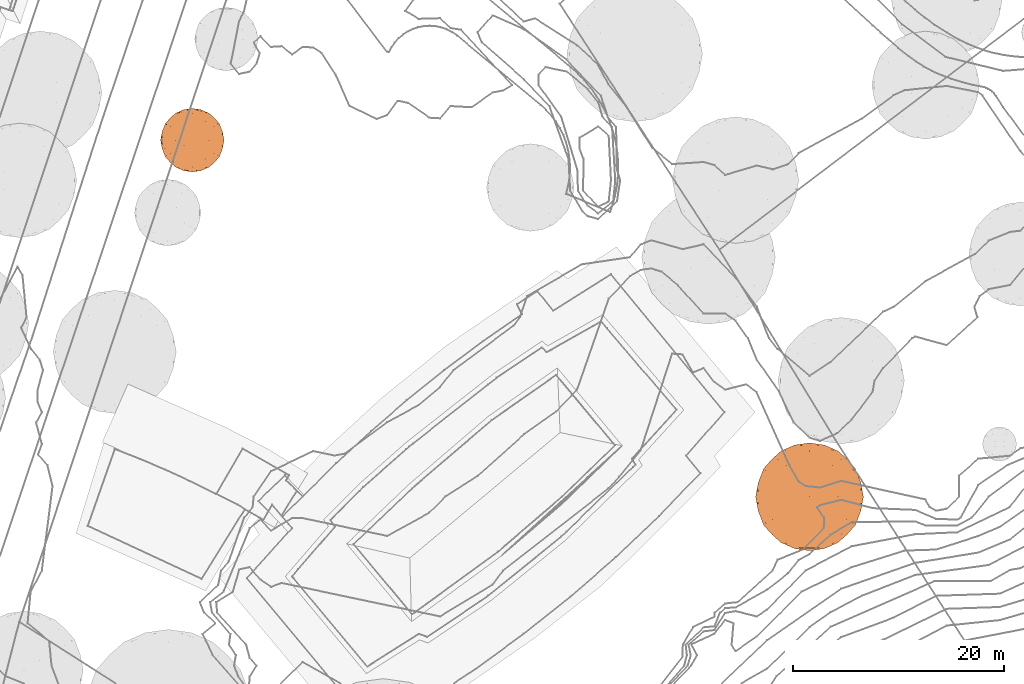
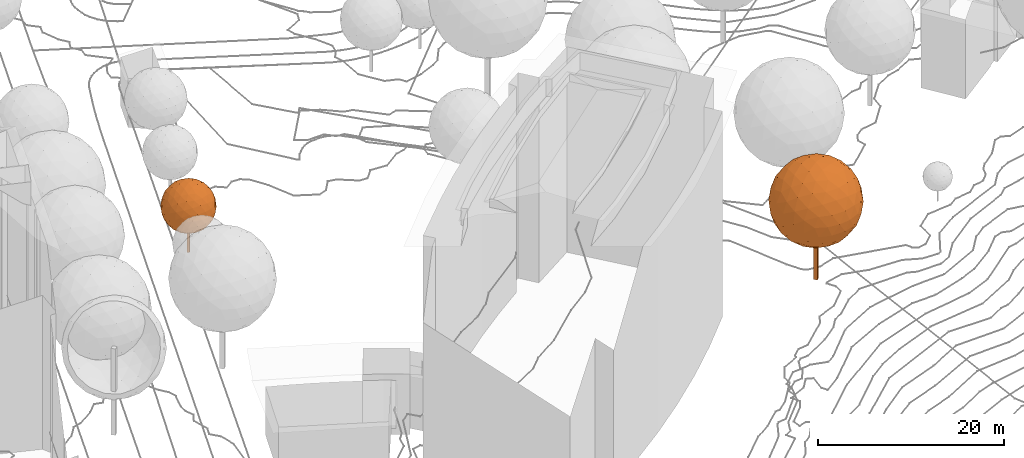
# Not in any storey, part 216 of 477: 2 geographic elements.
"""IFC4 model written with IfcOpenShell, lengths in metres."""

from ifc_helpers import new_model, si_unit, frame, origin_with_axes, place, context, subcontext, project, spatial, polygons, element, save


model = new_model("IFC4")

# Units and contexts
model_context = context("Model", 3, precision=1e-05, world=origin_with_axes())
body_context = subcontext(model_context, "Body", "Model", "MODEL_VIEW")
ifc_project = project(units=[si_unit("AREAUNIT", "SQUARE_METRE"), si_unit("LENGTHUNIT", "METRE")], contexts=[model_context])

# Sites
site_1_placement = place(None, origin_with_axes())
site_1 = spatial("IfcSite", under=ifc_project, at=site_1_placement, Name="Topoexport Site")
site_2_placement = place(site_1_placement, origin_with_axes())
site_2 = spatial("IfcSite", under=site_1, at=site_2_placement, Name="TPX_TREES")

# Geographic elements
geographic_element_1_placement = place(site_2_placement, frame((52.2147320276, 72.9507409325, 529.8251356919), z_axis=(0.0, 0.0, 1.0), x_axis=(1.0, 0.0, 0.0)))
element("IfcGeographicElement", 1, at=geographic_element_1_placement, inside=site_2, Name="Tree TR1 CD60", ObjectType="VEGETATION", PredefinedType="USERDEFINED", context=body_context, shape_type="Tessellation", body=[
    polygons([(0.0, -0.1913868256, 0.0), (-0.1913868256, 0.0, 0.0), (0.0, 0.1913868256, 0.0), (0.1913868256, 0.0, 0.0), (0.0, -0.1913868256, 6.0125944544), (-0.1913868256, 0.0, 6.0125944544), (0.0, 0.1913868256, 6.0125944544), (0.1913868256, 0.0, 6.0125944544)], [[[3, 4, 1]], [[1, 2, 3]], [[5, 8, 7]], [[7, 6, 5]], [[5, 6, 1]], [[1, 6, 2]], [[6, 7, 2]], [[2, 7, 3]], [[8, 5, 4]], [[4, 5, 1]], [[7, 8, 3]], [[3, 8, 4]]]),
    polygons([(-1.5805039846, 2.5573091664, 6.0125944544), (1.5805039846, 2.5573091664, 6.0125944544), (-1.5805039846, -2.5573091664, 6.0125944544), (1.5805039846, -2.5573091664, 6.0125944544), (0.0, -1.5805039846, 8.5699036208), (0.0, 1.5805039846, 8.5699036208), (0.0, -1.5805039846, 3.4552852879), (0.0, 1.5805039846, 3.4552852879), (2.5573091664, 0.0, 4.4320904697), (2.5573091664, 0.0, 7.593098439), (-2.5573091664, 0.0, 4.4320904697), (-2.5573091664, 0.0, 7.593098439), (0.0, 3.0062972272, 6.0125944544), (0.0, -3.0062972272, 6.0125944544), (-0.9289969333, -2.4321455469, 7.5157430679), (0.9289969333, -2.4321455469, 7.5157430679), (-0.9289969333, 2.4321455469, 7.5157430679), (0.9289969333, 2.4321455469, 7.5157430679), (0.0, 0.0, 9.0188916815), (-0.9289969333, -2.4321455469, 4.5094458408), (0.9289969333, -2.4321455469, 4.5094458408), (-0.9289969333, 2.4321455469, 4.5094458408), (0.9289969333, 2.4321455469, 4.5094458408), (0.0, 0.0, 3.0062972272), (2.4321455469, 1.5031486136, 5.083597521), (2.4321455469, -1.5031486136, 5.083597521), (1.5031486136, -0.9289969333, 3.5804489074), (1.5031486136, 0.9289969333, 3.5804489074), (2.4321455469, 1.5031486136, 6.9415913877), (2.4321455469, -1.5031486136, 6.9415913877), (1.5031486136, -0.9289969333, 8.4447400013), (1.5031486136, 0.9289969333, 8.4447400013), (3.0062972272, 0.0, 6.0125944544), (-2.4321455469, 1.5031486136, 5.083597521), (-2.4321455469, -1.5031486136, 5.083597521), (-1.5031486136, -0.9289969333, 3.5804489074), (-1.5031486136, 0.9289969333, 3.5804489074), (-2.4321455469, 1.5031486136, 6.9415913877), (-2.4321455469, -1.5031486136, 6.9415913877), (-1.5031486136, -0.9289969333, 8.4447400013), (-1.5031486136, 0.9289969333, 8.4447400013), (-3.0062972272, 0.0, 6.0125944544), (-0.8215204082, 2.8918726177, 6.0125944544), (0.8215204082, 2.8918726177, 6.0125944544), (-0.8215204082, -2.8918726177, 6.0125944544), (0.8215204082, -2.8918726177, 6.0125944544), (-1.3043979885, -2.5934378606, 6.7939067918), (-0.4828775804, -2.085710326, 8.1231547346), (-0.4884025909, -2.8591585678, 6.8028464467), (1.3043979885, -2.5934378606, 6.7939067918), (0.4828775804, -2.085710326, 8.1231547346), (0.4884025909, -2.8591585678, 6.8028464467), (0.0, -2.5573091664, 7.593098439), (-1.3043979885, 2.5934378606, 6.7939067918), (-0.4828775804, 2.085710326, 8.1231547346), (-0.4884025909, 2.8591585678, 6.8028464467), (1.3043979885, 2.5934378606, 6.7939067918), (0.4828775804, 2.085710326, 8.1231547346), (0.4884025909, 2.8591585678, 6.8028464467), (0.0, 2.5573091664, 7.593098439), (0.0, -0.8215204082, 8.9044670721), (0.0, 0.8215204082, 8.9044670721), (-1.3043979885, -2.5934378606, 5.2312821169), (-0.4828775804, -2.085710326, 3.9020341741), (-0.4884025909, -2.8591585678, 5.222342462), (1.3043979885, -2.5934378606, 5.2312821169), (0.4828775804, -2.085710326, 3.9020341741), (0.4884025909, -2.8591585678, 5.222342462), (0.0, -2.5573091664, 4.4320904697), (-1.3043979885, 2.5934378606, 5.2312821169), (-0.4828775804, 2.085710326, 3.9020341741), (-0.4884025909, 2.8591585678, 5.222342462), (1.3043979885, 2.5934378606, 5.2312821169), (0.4828775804, 2.085710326, 3.9020341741), (0.4884025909, 2.8591585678, 5.222342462), (0.0, 2.5573091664, 4.4320904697), (0.0, -0.8215204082, 3.1207218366), (0.0, 0.8215204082, 3.1207218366), (2.085710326, 2.1105602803, 5.529716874), (2.5934378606, 0.7813123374, 4.7081964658), (1.7670571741, 2.0689065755, 4.7339398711), (2.085710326, -2.1105602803, 5.529716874), (2.5934378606, -0.7813123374, 4.7081964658), (1.7670571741, -2.0689065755, 4.7339398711), (0.7813123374, -1.3043979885, 3.4191565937), (2.1105602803, -0.4828775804, 3.9268841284), (1.2786545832, -1.7670571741, 3.9436878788), (0.7902519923, -0.4884025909, 3.1534358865), (2.0689065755, -1.2786545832, 4.2455372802), (0.7813123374, 1.3043979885, 3.4191565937), (2.1105602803, 0.4828775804, 3.9268841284), (1.2786545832, 1.7670571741, 3.9436878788), (0.7902519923, 0.4884025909, 3.1534358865), (2.0689065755, 1.2786545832, 4.2455372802), (1.5805039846, 0.0, 3.4552852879), (2.085710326, 2.1105602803, 6.4954720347), (2.5934378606, 0.7813123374, 7.3169924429), (1.7670571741, 2.0689065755, 7.2912490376), (2.5573091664, 1.5805039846, 6.0125944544), (2.085710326, -2.1105602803, 6.4954720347), (2.5934378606, -0.7813123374, 7.3169924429), (1.7670571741, -2.0689065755, 7.2912490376), (2.5573091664, -1.5805039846, 6.0125944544), (0.7813123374, -1.3043979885, 8.606032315), (2.1105602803, -0.4828775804, 8.0983047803), (1.2786545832, -1.7670571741, 8.0815010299), (0.7902519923, -0.4884025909, 8.8717530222), (2.0689065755, -1.2786545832, 7.7796516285), (0.7813123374, 1.3043979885, 8.606032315), (2.1105602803, 0.4828775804, 8.0983047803), (1.2786545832, 1.7670571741, 8.0815010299), (0.7902519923, 0.4884025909, 8.8717530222), (2.0689065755, 1.2786545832, 7.7796516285), (1.5805039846, 0.0, 8.5699036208), (2.8918726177, 0.0, 5.1910740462), (2.8918726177, 0.0, 6.8341148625), (2.8591585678, 0.7902519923, 5.5241918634), (2.8591585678, -0.7902519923, 5.5241918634), (2.8591585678, 0.7902519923, 6.5009970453), (2.8591585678, -0.7902519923, 6.5009970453), (-2.085710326, 2.1105602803, 5.529716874), (-2.5934378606, 0.7813123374, 4.7081964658), (-1.7670571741, 2.0689065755, 4.7339398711), (-2.085710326, -2.1105602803, 5.529716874), (-2.5934378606, -0.7813123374, 4.7081964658), (-1.7670571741, -2.0689065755, 4.7339398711), (-0.7813123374, -1.3043979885, 3.4191565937), (-2.1105602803, -0.4828775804, 3.9268841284), (-1.2786545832, -1.7670571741, 3.9436878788), (-0.7902519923, -0.4884025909, 3.1534358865), (-2.0689065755, -1.2786545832, 4.2455372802), (-0.7813123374, 1.3043979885, 3.4191565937), (-2.1105602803, 0.4828775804, 3.9268841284), (-1.2786545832, 1.7670571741, 3.9436878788), (-0.7902519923, 0.4884025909, 3.1534358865), (-2.0689065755, 1.2786545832, 4.2455372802), (-1.5805039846, 0.0, 3.4552852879), (-2.085710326, 2.1105602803, 6.4954720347), (-2.5934378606, 0.7813123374, 7.3169924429), (-1.7670571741, 2.0689065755, 7.2912490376), (-2.5573091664, 1.5805039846, 6.0125944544), (-2.085710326, -2.1105602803, 6.4954720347), (-2.5934378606, -0.7813123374, 7.3169924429), (-1.7670571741, -2.0689065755, 7.2912490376), (-2.5573091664, -1.5805039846, 6.0125944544), (-0.7813123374, -1.3043979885, 8.606032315), (-2.1105602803, -0.4828775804, 8.0983047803), (-1.2786545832, -1.7670571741, 8.0815010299), (-0.7902519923, -0.4884025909, 8.8717530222), (-2.0689065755, -1.2786545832, 7.7796516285), (-0.7813123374, 1.3043979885, 8.606032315), (-2.1105602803, 0.4828775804, 8.0983047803), (-1.2786545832, 1.7670571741, 8.0815010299), (-0.7902519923, 0.4884025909, 8.8717530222), (-2.0689065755, 1.2786545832, 7.7796516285), (-1.5805039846, 0.0, 8.5699036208), (-2.8918726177, 0.0, 5.1910740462), (-2.8918726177, 0.0, 6.8341148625), (-2.8591585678, 0.7902519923, 5.5241918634), (-2.8591585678, -0.7902519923, 5.5241918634), (-2.8591585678, 0.7902519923, 6.5009970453), (-2.8591585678, -0.7902519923, 6.5009970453)], [[[1, 138, 54]], [[138, 38, 140]], [[54, 140, 17]], [[138, 140, 54]], [[38, 139, 155]], [[139, 12, 152]], [[155, 152, 41]], [[139, 152, 155]], [[17, 153, 55]], [[153, 41, 151]], [[55, 151, 6]], [[153, 151, 55]], [[38, 155, 140]], [[155, 41, 153]], [[140, 153, 17]], [[155, 153, 140]], [[1, 54, 43]], [[54, 17, 56]], [[43, 56, 13]], [[54, 56, 43]], [[17, 55, 60]], [[55, 6, 58]], [[60, 58, 18]], [[55, 58, 60]], [[13, 59, 44]], [[59, 18, 57]], [[44, 57, 2]], [[59, 57, 44]], [[17, 60, 56]], [[60, 18, 59]], [[56, 59, 13]], [[60, 59, 56]], [[1, 43, 70]], [[43, 13, 72]], [[70, 72, 22]], [[43, 72, 70]], [[13, 44, 75]], [[44, 2, 73]], [[75, 73, 23]], [[44, 73, 75]], [[22, 76, 71]], [[76, 23, 74]], [[71, 74, 8]], [[76, 74, 71]], [[13, 75, 72]], [[75, 23, 76]], [[72, 76, 22]], [[75, 76, 72]], [[1, 70, 121]], [[70, 22, 123]], [[121, 123, 34]], [[70, 123, 121]], [[22, 71, 134]], [[71, 8, 132]], [[134, 132, 37]], [[71, 132, 134]], [[34, 136, 122]], [[136, 37, 133]], [[122, 133, 11]], [[136, 133, 122]], [[22, 134, 123]], [[134, 37, 136]], [[123, 136, 34]], [[134, 136, 123]], [[1, 121, 138]], [[121, 34, 141]], [[138, 141, 38]], [[121, 141, 138]], [[34, 122, 159]], [[122, 11, 157]], [[159, 157, 42]], [[122, 157, 159]], [[38, 161, 139]], [[161, 42, 158]], [[139, 158, 12]], [[161, 158, 139]], [[34, 159, 141]], [[159, 42, 161]], [[141, 161, 38]], [[159, 161, 141]], [[2, 57, 96]], [[57, 18, 98]], [[96, 98, 29]], [[57, 98, 96]], [[18, 58, 111]], [[58, 6, 109]], [[111, 109, 32]], [[58, 109, 111]], [[29, 113, 97]], [[113, 32, 110]], [[97, 110, 10]], [[113, 110, 97]], [[18, 111, 98]], [[111, 32, 113]], [[98, 113, 29]], [[111, 113, 98]], [[6, 151, 62]], [[151, 41, 154]], [[62, 154, 19]], [[151, 154, 62]], [[41, 152, 156]], [[152, 12, 147]], [[156, 147, 40]], [[152, 147, 156]], [[19, 149, 61]], [[149, 40, 146]], [[61, 146, 5]], [[149, 146, 61]], [[41, 156, 154]], [[156, 40, 149]], [[154, 149, 19]], [[156, 149, 154]], [[12, 158, 143]], [[158, 42, 162]], [[143, 162, 39]], [[158, 162, 143]], [[42, 157, 160]], [[157, 11, 125]], [[160, 125, 35]], [[157, 125, 160]], [[39, 145, 142]], [[145, 35, 124]], [[142, 124, 3]], [[145, 124, 142]], [[42, 160, 162]], [[160, 35, 145]], [[162, 145, 39]], [[160, 145, 162]], [[11, 133, 128]], [[133, 37, 137]], [[128, 137, 36]], [[133, 137, 128]], [[37, 132, 135]], [[132, 8, 78]], [[135, 78, 24]], [[132, 78, 135]], [[36, 130, 127]], [[130, 24, 77]], [[127, 77, 7]], [[130, 77, 127]], [[37, 135, 137]], [[135, 24, 130]], [[137, 130, 36]], [[135, 130, 137]], [[8, 74, 90]], [[74, 23, 92]], [[90, 92, 28]], [[74, 92, 90]], [[23, 73, 81]], [[73, 2, 79]], [[81, 79, 25]], [[73, 79, 81]], [[28, 94, 91]], [[94, 25, 80]], [[91, 80, 9]], [[94, 80, 91]], [[23, 81, 92]], [[81, 25, 94]], [[92, 94, 28]], [[81, 94, 92]], [[4, 100, 50]], [[100, 30, 102]], [[50, 102, 16]], [[100, 102, 50]], [[30, 101, 108]], [[101, 10, 105]], [[108, 105, 31]], [[101, 105, 108]], [[16, 106, 51]], [[106, 31, 104]], [[51, 104, 5]], [[106, 104, 51]], [[30, 108, 102]], [[108, 31, 106]], [[102, 106, 16]], [[108, 106, 102]], [[4, 50, 46]], [[50, 16, 52]], [[46, 52, 14]], [[50, 52, 46]], [[16, 51, 53]], [[51, 5, 48]], [[53, 48, 15]], [[51, 48, 53]], [[14, 49, 45]], [[49, 15, 47]], [[45, 47, 3]], [[49, 47, 45]], [[16, 53, 52]], [[53, 15, 49]], [[52, 49, 14]], [[53, 49, 52]], [[4, 46, 66]], [[46, 14, 68]], [[66, 68, 21]], [[46, 68, 66]], [[14, 45, 65]], [[45, 3, 63]], [[65, 63, 20]], [[45, 63, 65]], [[21, 69, 67]], [[69, 20, 64]], [[67, 64, 7]], [[69, 64, 67]], [[14, 65, 68]], [[65, 20, 69]], [[68, 69, 21]], [[65, 69, 68]], [[4, 66, 82]], [[66, 21, 84]], [[82, 84, 26]], [[66, 84, 82]], [[21, 67, 87]], [[67, 7, 85]], [[87, 85, 27]], [[67, 85, 87]], [[26, 89, 83]], [[89, 27, 86]], [[83, 86, 9]], [[89, 86, 83]], [[21, 87, 84]], [[87, 27, 89]], [[84, 89, 26]], [[87, 89, 84]], [[4, 82, 100]], [[82, 26, 103]], [[100, 103, 30]], [[82, 103, 100]], [[26, 83, 118]], [[83, 9, 115]], [[118, 115, 33]], [[83, 115, 118]], [[30, 120, 101]], [[120, 33, 116]], [[101, 116, 10]], [[120, 116, 101]], [[26, 118, 103]], [[118, 33, 120]], [[103, 120, 30]], [[118, 120, 103]], [[5, 104, 61]], [[104, 31, 107]], [[61, 107, 19]], [[104, 107, 61]], [[31, 105, 114]], [[105, 10, 110]], [[114, 110, 32]], [[105, 110, 114]], [[19, 112, 62]], [[112, 32, 109]], [[62, 109, 6]], [[112, 109, 62]], [[31, 114, 107]], [[114, 32, 112]], [[107, 112, 19]], [[114, 112, 107]], [[3, 47, 142]], [[47, 15, 144]], [[142, 144, 39]], [[47, 144, 142]], [[15, 48, 148]], [[48, 5, 146]], [[148, 146, 40]], [[48, 146, 148]], [[39, 150, 143]], [[150, 40, 147]], [[143, 147, 12]], [[150, 147, 143]], [[15, 148, 144]], [[148, 40, 150]], [[144, 150, 39]], [[148, 150, 144]], [[7, 64, 127]], [[64, 20, 129]], [[127, 129, 36]], [[64, 129, 127]], [[20, 63, 126]], [[63, 3, 124]], [[126, 124, 35]], [[63, 124, 126]], [[36, 131, 128]], [[131, 35, 125]], [[128, 125, 11]], [[131, 125, 128]], [[20, 126, 129]], [[126, 35, 131]], [[129, 131, 36]], [[126, 131, 129]], [[9, 86, 91]], [[86, 27, 95]], [[91, 95, 28]], [[86, 95, 91]], [[27, 85, 88]], [[85, 7, 77]], [[88, 77, 24]], [[85, 77, 88]], [[28, 93, 90]], [[93, 24, 78]], [[90, 78, 8]], [[93, 78, 90]], [[27, 88, 95]], [[88, 24, 93]], [[95, 93, 28]], [[88, 93, 95]], [[10, 116, 97]], [[116, 33, 119]], [[97, 119, 29]], [[116, 119, 97]], [[33, 115, 117]], [[115, 9, 80]], [[117, 80, 25]], [[115, 80, 117]], [[29, 99, 96]], [[99, 25, 79]], [[96, 79, 2]], [[99, 79, 96]], [[33, 117, 119]], [[117, 25, 99]], [[119, 99, 29]], [[117, 99, 119]]]),
])
geographic_element_2_placement = place(site_2_placement, frame((110.6777320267, 39.1707419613, 526.315533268), z_axis=(0.0, 0.0, 1.0), x_axis=(1.0, 0.0, 0.0)))
element("IfcGeographicElement", 2, at=geographic_element_2_placement, inside=site_2, Name="Tree TR3 CD102", ObjectType="VEGETATION", PredefinedType="USERDEFINED", context=body_context, shape_type="Tessellation", body=[
    polygons([(0.0, -0.3250683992, 0.0), (-0.3250683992, 0.0, 0.0), (0.0, 0.3250683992, 0.0), (0.3250683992, 0.0, 0.0), (0.0, -0.3250683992, 10.2123249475), (-0.3250683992, 0.0, 10.2123249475), (0.0, 0.3250683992, 10.2123249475), (0.3250683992, 0.0, 10.2123249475)], [[[3, 4, 1]], [[1, 2, 3]], [[5, 8, 7]], [[7, 6, 5]], [[5, 6, 1]], [[1, 6, 2]], [[6, 7, 2]], [[2, 7, 3]], [[8, 5, 4]], [[4, 5, 1]], [[7, 8, 3]], [[3, 8, 4]]]),
    polygons([(-2.684468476, 4.3435612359, 10.2123249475), (2.684468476, 4.3435612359, 10.2123249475), (-2.684468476, -4.3435612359, 10.2123249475), (2.684468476, -4.3435612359, 10.2123249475), (0.0, -2.684468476, 14.5558861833), (0.0, 2.684468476, 14.5558861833), (0.0, -2.684468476, 5.8687637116), (0.0, 2.684468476, 5.8687637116), (4.3435612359, 0.0, 7.5278564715), (4.3435612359, 0.0, 12.8967934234), (-4.3435612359, 0.0, 7.5278564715), (-4.3435612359, 0.0, 12.8967934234), (0.0, 5.1061624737, 10.2123249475), (0.0, -5.1061624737, 10.2123249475), (-1.5778909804, -4.1309722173, 12.7654061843), (1.5778909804, -4.1309722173, 12.7654061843), (-1.5778909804, 4.1309722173, 12.7654061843), (1.5778909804, 4.1309722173, 12.7654061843), (0.0, 0.0, 15.3184874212), (-1.5778909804, -4.1309722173, 7.6592437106), (1.5778909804, -4.1309722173, 7.6592437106), (-1.5778909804, 4.1309722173, 7.6592437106), (1.5778909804, 4.1309722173, 7.6592437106), (0.0, 0.0, 5.1061624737), (4.1309722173, 2.5530812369, 8.634433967), (4.1309722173, -2.5530812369, 8.634433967), (2.5530812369, -1.5778909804, 6.0813527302), (2.5530812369, 1.5778909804, 6.0813527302), (4.1309722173, 2.5530812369, 11.7902159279), (4.1309722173, -2.5530812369, 11.7902159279), (2.5530812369, -1.5778909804, 14.3432971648), (2.5530812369, 1.5778909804, 14.3432971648), (5.1061624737, 0.0, 10.2123249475), (-4.1309722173, 2.5530812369, 8.634433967), (-4.1309722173, -2.5530812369, 8.634433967), (-2.5530812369, -1.5778909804, 6.0813527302), (-2.5530812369, 1.5778909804, 6.0813527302), (-4.1309722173, 2.5530812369, 11.7902159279), (-4.1309722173, -2.5530812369, 11.7902159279), (-2.5530812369, -1.5778909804, 14.3432971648), (-2.5530812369, 1.5778909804, 14.3432971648), (-5.1061624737, 0.0, 10.2123249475), (-1.3953432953, 4.9118135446, 10.2123249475), (1.3953432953, 4.9118135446, 10.2123249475), (-1.3953432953, -4.9118135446, 10.2123249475), (1.3953432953, -4.9118135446, 10.2123249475), (-2.2155055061, -4.404925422, 11.5393752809), (-0.8201622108, -3.5425558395, 13.7970881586), (-0.8295463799, -4.8562490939, 11.5545591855), (2.2155055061, -4.404925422, 11.5393752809), (0.8201622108, -3.5425558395, 13.7970881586), (0.8295463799, -4.8562490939, 11.5545591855), (0.0, -4.3435612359, 12.8967934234), (-2.2155055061, 4.404925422, 11.5393752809), (-0.8201622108, 3.5425558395, 13.7970881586), (-0.8295463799, 4.8562490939, 11.5545591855), (2.2155055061, 4.404925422, 11.5393752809), (0.8201622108, 3.5425558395, 13.7970881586), (0.8295463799, 4.8562490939, 11.5545591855), (0.0, 4.3435612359, 12.8967934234), (0.0, -1.3953432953, 15.124138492), (0.0, 1.3953432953, 15.124138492), (-2.2155055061, -4.404925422, 8.885274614), (-0.8201622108, -3.5425558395, 6.6275617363), (-0.8295463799, -4.8562490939, 8.8700907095), (2.2155055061, -4.404925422, 8.885274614), (0.8201622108, -3.5425558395, 6.6275617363), (0.8295463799, -4.8562490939, 8.8700907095), (0.0, -4.3435612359, 7.5278564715), (-2.2155055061, 4.404925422, 8.885274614), (-0.8201622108, 3.5425558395, 6.6275617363), (-0.8295463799, 4.8562490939, 8.8700907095), (2.2155055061, 4.404925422, 8.885274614), (0.8201622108, 3.5425558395, 6.6275617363), (0.8295463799, 4.8562490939, 8.8700907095), (0.0, 4.3435612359, 7.5278564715), (0.0, -1.3953432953, 5.3005114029), (0.0, 1.3953432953, 5.3005114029), (3.5425558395, 3.5847632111, 9.3921627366), (4.404925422, 1.3270503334, 7.9968194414), (3.0013269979, 3.5140148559, 8.0405443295), (3.5425558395, -3.5847632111, 9.3921627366), (4.404925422, -1.3270503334, 7.9968194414), (3.0013269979, -3.5140148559, 8.0405443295), (1.3270503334, -2.2155055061, 5.8073995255), (3.5847632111, -0.8201622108, 6.6697691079), (2.1717806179, -3.0013269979, 6.6983100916), (1.342234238, -0.8295463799, 5.3560758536), (3.5140148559, -2.1717806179, 7.2109979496), (1.3270503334, 2.2155055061, 5.8073995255), (3.5847632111, 0.8201622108, 6.6697691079), (2.1717806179, 3.0013269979, 6.6983100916), (1.342234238, 0.8295463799, 5.3560758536), (3.5140148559, 2.1717806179, 7.2109979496), (2.684468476, 0.0, 5.8687637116), (3.5425558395, 3.5847632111, 11.0324871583), (4.404925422, 1.3270503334, 12.4278304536), (3.0013269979, 3.5140148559, 12.3841055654), (4.3435612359, 2.684468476, 10.2123249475), (3.5425558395, -3.5847632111, 11.0324871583), (4.404925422, -1.3270503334, 12.4278304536), (3.0013269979, -3.5140148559, 12.3841055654), (4.3435612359, -2.684468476, 10.2123249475), (1.3270503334, -2.2155055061, 14.6172503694), (3.5847632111, -0.8201622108, 13.754880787), (2.1717806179, -3.0013269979, 13.7263398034), (1.342234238, -0.8295463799, 15.0685740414), (3.5140148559, -2.1717806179, 13.2136519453), (1.3270503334, 2.2155055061, 14.6172503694), (3.5847632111, 0.8201622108, 13.754880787), (2.1717806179, 3.0013269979, 13.7263398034), (1.342234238, 0.8295463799, 15.0685740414), (3.5140148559, 2.1717806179, 13.2136519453), (2.684468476, 0.0, 14.5558861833), (4.9118135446, 0.0, 8.8169816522), (4.9118135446, 0.0, 11.6076682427), (4.8562490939, 1.342234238, 9.3827785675), (4.8562490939, -1.342234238, 9.3827785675), (4.8562490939, 1.342234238, 11.0418713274), (4.8562490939, -1.342234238, 11.0418713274), (-3.5425558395, 3.5847632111, 9.3921627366), (-4.404925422, 1.3270503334, 7.9968194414), (-3.0013269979, 3.5140148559, 8.0405443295), (-3.5425558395, -3.5847632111, 9.3921627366), (-4.404925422, -1.3270503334, 7.9968194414), (-3.0013269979, -3.5140148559, 8.0405443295), (-1.3270503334, -2.2155055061, 5.8073995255), (-3.5847632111, -0.8201622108, 6.6697691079), (-2.1717806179, -3.0013269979, 6.6983100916), (-1.342234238, -0.8295463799, 5.3560758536), (-3.5140148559, -2.1717806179, 7.2109979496), (-1.3270503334, 2.2155055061, 5.8073995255), (-3.5847632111, 0.8201622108, 6.6697691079), (-2.1717806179, 3.0013269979, 6.6983100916), (-1.342234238, 0.8295463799, 5.3560758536), (-3.5140148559, 2.1717806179, 7.2109979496), (-2.684468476, 0.0, 5.8687637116), (-3.5425558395, 3.5847632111, 11.0324871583), (-4.404925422, 1.3270503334, 12.4278304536), (-3.0013269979, 3.5140148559, 12.3841055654), (-4.3435612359, 2.684468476, 10.2123249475), (-3.5425558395, -3.5847632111, 11.0324871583), (-4.404925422, -1.3270503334, 12.4278304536), (-3.0013269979, -3.5140148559, 12.3841055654), (-4.3435612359, -2.684468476, 10.2123249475), (-1.3270503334, -2.2155055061, 14.6172503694), (-3.5847632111, -0.8201622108, 13.754880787), (-2.1717806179, -3.0013269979, 13.7263398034), (-1.342234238, -0.8295463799, 15.0685740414), (-3.5140148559, -2.1717806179, 13.2136519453), (-1.3270503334, 2.2155055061, 14.6172503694), (-3.5847632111, 0.8201622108, 13.754880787), (-2.1717806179, 3.0013269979, 13.7263398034), (-1.342234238, 0.8295463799, 15.0685740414), (-3.5140148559, 2.1717806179, 13.2136519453), (-2.684468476, 0.0, 14.5558861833), (-4.9118135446, 0.0, 8.8169816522), (-4.9118135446, 0.0, 11.6076682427), (-4.8562490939, 1.342234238, 9.3827785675), (-4.8562490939, -1.342234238, 9.3827785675), (-4.8562490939, 1.342234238, 11.0418713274), (-4.8562490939, -1.342234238, 11.0418713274)], [[[1, 138, 54]], [[138, 38, 140]], [[54, 140, 17]], [[138, 140, 54]], [[38, 139, 155]], [[139, 12, 152]], [[155, 152, 41]], [[139, 152, 155]], [[17, 153, 55]], [[153, 41, 151]], [[55, 151, 6]], [[153, 151, 55]], [[38, 155, 140]], [[155, 41, 153]], [[140, 153, 17]], [[155, 153, 140]], [[1, 54, 43]], [[54, 17, 56]], [[43, 56, 13]], [[54, 56, 43]], [[17, 55, 60]], [[55, 6, 58]], [[60, 58, 18]], [[55, 58, 60]], [[13, 59, 44]], [[59, 18, 57]], [[44, 57, 2]], [[59, 57, 44]], [[17, 60, 56]], [[60, 18, 59]], [[56, 59, 13]], [[60, 59, 56]], [[1, 43, 70]], [[43, 13, 72]], [[70, 72, 22]], [[43, 72, 70]], [[13, 44, 75]], [[44, 2, 73]], [[75, 73, 23]], [[44, 73, 75]], [[22, 76, 71]], [[76, 23, 74]], [[71, 74, 8]], [[76, 74, 71]], [[13, 75, 72]], [[75, 23, 76]], [[72, 76, 22]], [[75, 76, 72]], [[1, 70, 121]], [[70, 22, 123]], [[121, 123, 34]], [[70, 123, 121]], [[22, 71, 134]], [[71, 8, 132]], [[134, 132, 37]], [[71, 132, 134]], [[34, 136, 122]], [[136, 37, 133]], [[122, 133, 11]], [[136, 133, 122]], [[22, 134, 123]], [[134, 37, 136]], [[123, 136, 34]], [[134, 136, 123]], [[1, 121, 138]], [[121, 34, 141]], [[138, 141, 38]], [[121, 141, 138]], [[34, 122, 159]], [[122, 11, 157]], [[159, 157, 42]], [[122, 157, 159]], [[38, 161, 139]], [[161, 42, 158]], [[139, 158, 12]], [[161, 158, 139]], [[34, 159, 141]], [[159, 42, 161]], [[141, 161, 38]], [[159, 161, 141]], [[2, 57, 96]], [[57, 18, 98]], [[96, 98, 29]], [[57, 98, 96]], [[18, 58, 111]], [[58, 6, 109]], [[111, 109, 32]], [[58, 109, 111]], [[29, 113, 97]], [[113, 32, 110]], [[97, 110, 10]], [[113, 110, 97]], [[18, 111, 98]], [[111, 32, 113]], [[98, 113, 29]], [[111, 113, 98]], [[6, 151, 62]], [[151, 41, 154]], [[62, 154, 19]], [[151, 154, 62]], [[41, 152, 156]], [[152, 12, 147]], [[156, 147, 40]], [[152, 147, 156]], [[19, 149, 61]], [[149, 40, 146]], [[61, 146, 5]], [[149, 146, 61]], [[41, 156, 154]], [[156, 40, 149]], [[154, 149, 19]], [[156, 149, 154]], [[12, 158, 143]], [[158, 42, 162]], [[143, 162, 39]], [[158, 162, 143]], [[42, 157, 160]], [[157, 11, 125]], [[160, 125, 35]], [[157, 125, 160]], [[39, 145, 142]], [[145, 35, 124]], [[142, 124, 3]], [[145, 124, 142]], [[42, 160, 162]], [[160, 35, 145]], [[162, 145, 39]], [[160, 145, 162]], [[11, 133, 128]], [[133, 37, 137]], [[128, 137, 36]], [[133, 137, 128]], [[37, 132, 135]], [[132, 8, 78]], [[135, 78, 24]], [[132, 78, 135]], [[36, 130, 127]], [[130, 24, 77]], [[127, 77, 7]], [[130, 77, 127]], [[37, 135, 137]], [[135, 24, 130]], [[137, 130, 36]], [[135, 130, 137]], [[8, 74, 90]], [[74, 23, 92]], [[90, 92, 28]], [[74, 92, 90]], [[23, 73, 81]], [[73, 2, 79]], [[81, 79, 25]], [[73, 79, 81]], [[28, 94, 91]], [[94, 25, 80]], [[91, 80, 9]], [[94, 80, 91]], [[23, 81, 92]], [[81, 25, 94]], [[92, 94, 28]], [[81, 94, 92]], [[4, 100, 50]], [[100, 30, 102]], [[50, 102, 16]], [[100, 102, 50]], [[30, 101, 108]], [[101, 10, 105]], [[108, 105, 31]], [[101, 105, 108]], [[16, 106, 51]], [[106, 31, 104]], [[51, 104, 5]], [[106, 104, 51]], [[30, 108, 102]], [[108, 31, 106]], [[102, 106, 16]], [[108, 106, 102]], [[4, 50, 46]], [[50, 16, 52]], [[46, 52, 14]], [[50, 52, 46]], [[16, 51, 53]], [[51, 5, 48]], [[53, 48, 15]], [[51, 48, 53]], [[14, 49, 45]], [[49, 15, 47]], [[45, 47, 3]], [[49, 47, 45]], [[16, 53, 52]], [[53, 15, 49]], [[52, 49, 14]], [[53, 49, 52]], [[4, 46, 66]], [[46, 14, 68]], [[66, 68, 21]], [[46, 68, 66]], [[14, 45, 65]], [[45, 3, 63]], [[65, 63, 20]], [[45, 63, 65]], [[21, 69, 67]], [[69, 20, 64]], [[67, 64, 7]], [[69, 64, 67]], [[14, 65, 68]], [[65, 20, 69]], [[68, 69, 21]], [[65, 69, 68]], [[4, 66, 82]], [[66, 21, 84]], [[82, 84, 26]], [[66, 84, 82]], [[21, 67, 87]], [[67, 7, 85]], [[87, 85, 27]], [[67, 85, 87]], [[26, 89, 83]], [[89, 27, 86]], [[83, 86, 9]], [[89, 86, 83]], [[21, 87, 84]], [[87, 27, 89]], [[84, 89, 26]], [[87, 89, 84]], [[4, 82, 100]], [[82, 26, 103]], [[100, 103, 30]], [[82, 103, 100]], [[26, 83, 118]], [[83, 9, 115]], [[118, 115, 33]], [[83, 115, 118]], [[30, 120, 101]], [[120, 33, 116]], [[101, 116, 10]], [[120, 116, 101]], [[26, 118, 103]], [[118, 33, 120]], [[103, 120, 30]], [[118, 120, 103]], [[5, 104, 61]], [[104, 31, 107]], [[61, 107, 19]], [[104, 107, 61]], [[31, 105, 114]], [[105, 10, 110]], [[114, 110, 32]], [[105, 110, 114]], [[19, 112, 62]], [[112, 32, 109]], [[62, 109, 6]], [[112, 109, 62]], [[31, 114, 107]], [[114, 32, 112]], [[107, 112, 19]], [[114, 112, 107]], [[3, 47, 142]], [[47, 15, 144]], [[142, 144, 39]], [[47, 144, 142]], [[15, 48, 148]], [[48, 5, 146]], [[148, 146, 40]], [[48, 146, 148]], [[39, 150, 143]], [[150, 40, 147]], [[143, 147, 12]], [[150, 147, 143]], [[15, 148, 144]], [[148, 40, 150]], [[144, 150, 39]], [[148, 150, 144]], [[7, 64, 127]], [[64, 20, 129]], [[127, 129, 36]], [[64, 129, 127]], [[20, 63, 126]], [[63, 3, 124]], [[126, 124, 35]], [[63, 124, 126]], [[36, 131, 128]], [[131, 35, 125]], [[128, 125, 11]], [[131, 125, 128]], [[20, 126, 129]], [[126, 35, 131]], [[129, 131, 36]], [[126, 131, 129]], [[9, 86, 91]], [[86, 27, 95]], [[91, 95, 28]], [[86, 95, 91]], [[27, 85, 88]], [[85, 7, 77]], [[88, 77, 24]], [[85, 77, 88]], [[28, 93, 90]], [[93, 24, 78]], [[90, 78, 8]], [[93, 78, 90]], [[27, 88, 95]], [[88, 24, 93]], [[95, 93, 28]], [[88, 93, 95]], [[10, 116, 97]], [[116, 33, 119]], [[97, 119, 29]], [[116, 119, 97]], [[33, 115, 117]], [[115, 9, 80]], [[117, 80, 25]], [[115, 80, 117]], [[29, 99, 96]], [[99, 25, 79]], [[96, 79, 2]], [[99, 79, 96]], [[33, 117, 119]], [[117, 25, 99]], [[119, 99, 29]], [[117, 99, 119]]]),
])

save(model, "model.ifc")
